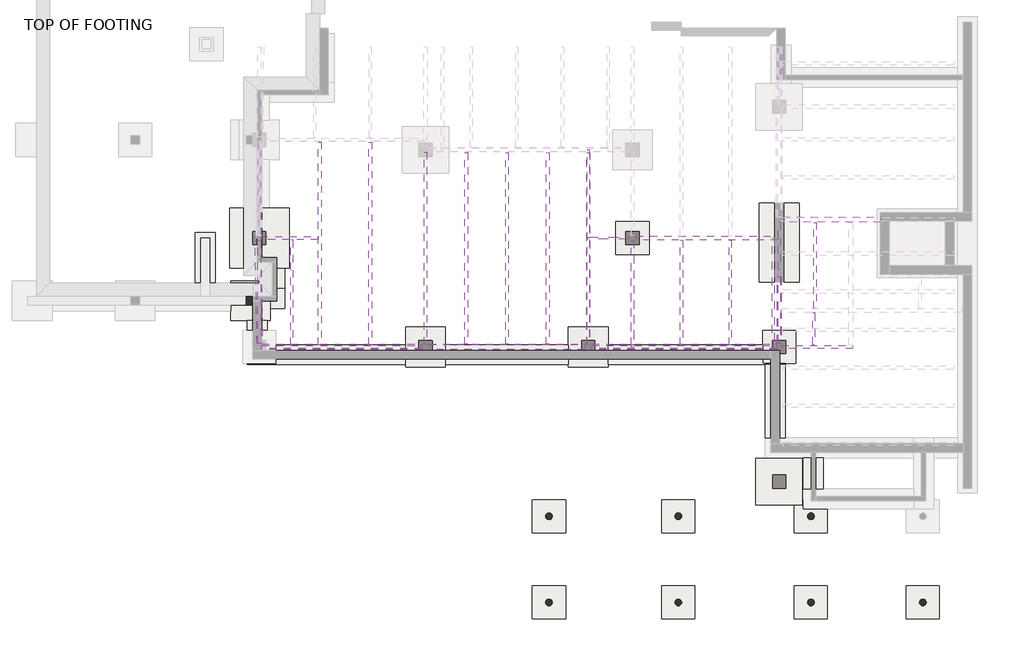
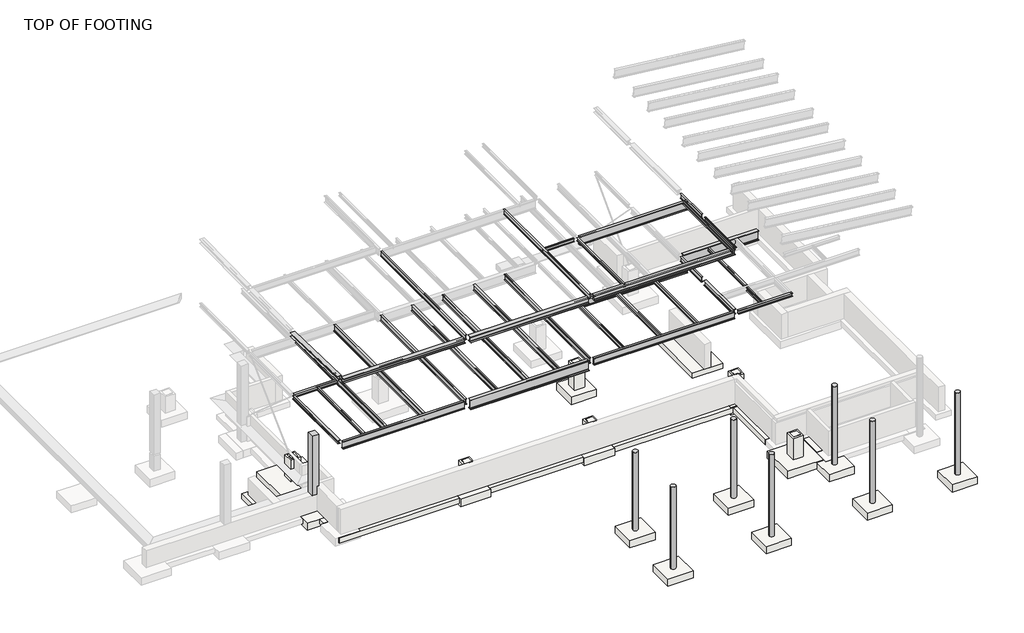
# One storey, part 2 of 5: 35 beams, 14 slabs, 8 columns, 8 footings.
"""IFC4 building model written with IfcOpenShell, lengths in millimetres."""

from ifc_helpers import new_model, si_unit, point, frame, frame_2d, origin, place, context, project, spatial, polyline, circle_curve, trimmed, segment, composite_curve, outline, extrude, faceted_brep, transform, mapped, element, save
from components import w_wide_flange_w10x12_1bd4f99f, w_wide_flange_w10x12_ebacd2cb, w_wide_flange_w10x49_96518129, w_wide_flange_w10x49_8d358260, w_wide_flange_w12x16_ddd03c39, w_wide_flange_w12x16_59da3857, w_wide_flange_w12x19_d63bb9e0, w_wide_flange_w12x30_b48d1e93, w_wide_flange_w12x53_96ffc1ec, w_wide_flange_w14x22_2ac3afcd, w_wide_flange_w14x22_4ceff1ba, w_wide_flange_w14x22_2e51511a, w_wide_flange_w14x22_ec72dc32, w_wide_flange_w14x61_86819d2a, w_wide_flange_w16x26_70125ba5, w_wide_flange_w16x31_951fd6ce, w_wide_flange_w18x46_b0132ec0, w_wide_flange_w21x44_c4d24364, w_wide_flange_w24x84_e470d529, w_wide_flange_w24x84_4409fa3f, w_wide_flange_w8x10_84c81e36, w_wide_flange_w8x10_45ce977e, w_wide_flange_w8x10_f623109c, w_wide_flange_w8x10_993dd0ac, w_wide_flange_w8x10_f96a4068, w_wide_flange_w8x10_729b3ca8, w_wide_flange_w8x10_84773640, w_wide_flange_w8x18_c4c3ec7c, w_wide_flange_w8x18_5f46299d, w_wide_flange_w8x18_17d6e70c, slab_df1ede25, footing_rectangular_with_pier_95157401

model = new_model("IFC4")

# Units and contexts
model_context = context("Model", 3, world=origin())
ifc_project = project(units=[si_unit("LENGTHUNIT", "METRE", prefix="MILLI")], contexts=[model_context])

# Site, building, storey
site = spatial("IfcSite", under=ifc_project)
building = spatial("IfcBuilding", under=site)
storey = spatial("IfcBuildingStorey", under=building, Name="TOP OF FOOTING", Elevation=28905.2)

# Beams
placement = place(None, origin())
w_wide_flange_w10x12_shape = w_wide_flange_w10x12_1bd4f99f(model_context)
element("IfcBeam", 1, ObjectType="W-Wide Flange : W10X12", at=placement, inside=storey, context=model_context, shape_type="MappedRepresentation", body=[
    mapped(w_wide_flange_w10x12_shape, transform((9072.9878726, -4439.2429995, 34253.551), x_axis=(0.0, -1.0, 0.0), y_axis=(1.0, 0.0, 0.0), z_axis=(0.0, 0.0, 1.0))),
])
element("IfcBeam", 2, ObjectType="W-Wide Flange : W10X12", at=placement, inside=storey, context=model_context, shape_type="MappedRepresentation", body=[
    mapped(w_wide_flange_w10x12_shape, transform((11320.358706, -4439.2429995, 34253.551), x_axis=(0.0, -1.0, 0.0), y_axis=(1.0, 0.0, 0.0), z_axis=(0.0, 0.0, 1.0))),
])
w_wide_flange_w10x12_2_shape = w_wide_flange_w10x12_ebacd2cb(model_context)
element("IfcBeam", 3, ObjectType="W-Wide Flange : W10X12", at=placement, inside=storey, context=model_context, shape_type="MappedRepresentation", body=[
    mapped(w_wide_flange_w10x12_2_shape, transform((6825.6170393, -4439.2429995, 34253.551), x_axis=(0.0, -1.0, 0.0), y_axis=(1.0, 0.0, 0.0), z_axis=(0.0, 0.0, 1.0))),
])
w_wide_flange_w10x49_shape = w_wide_flange_w10x49_96518129(model_context)
element("IfcBeam", 4, ObjectType="W-Wide Flange : W10X49", at=placement, inside=storey, context=model_context, shape_type="MappedRepresentation", body=[
    mapped(w_wide_flange_w10x49_shape, transform((-6564.9454607, -6942.7304995, 38277.8), x_axis=(1.0, 0.0, 0.0), y_axis=(0.0, 1.0, 0.0), z_axis=(0.0, 0.0, 1.0))),
])
w_wide_flange_w10x49_2_shape = w_wide_flange_w10x49_8d358260(model_context)
element("IfcBeam", 5, ObjectType="W-Wide Flange : W10X49", at=placement, inside=storey, context=model_context, shape_type="MappedRepresentation", body=[
    mapped(w_wide_flange_w10x49_2_shape, transform((-10353.3115157, -4435.9636409, 38341.3), x_axis=(-0.01923994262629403, 0.9998148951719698, 0.0), y_axis=(-0.9998148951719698, -0.01923994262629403, 0.0), z_axis=(0.0, 0.0, 1.0))),
])
w_wide_flange_w12x16_shape = w_wide_flange_w12x16_ddd03c39(model_context)
element("IfcBeam", 6, ObjectType="W-Wide Flange : W12X16", at=placement, inside=storey, context=model_context, shape_type="MappedRepresentation", body=[
    mapped(w_wide_flange_w12x16_shape, transform((-2689.8579607, -2446.9304995, 38315.9), x_axis=(0.0, 1.0, 0.0), y_axis=(-1.0, 0.0, 0.0), z_axis=(0.0, 0.0, 1.0))),
])
w_wide_flange_w12x16_2_shape = w_wide_flange_w12x16_59da3857(model_context)
element("IfcBeam", 7, ObjectType="W-Wide Flange : W12X16", at=placement, inside=storey, context=model_context, shape_type="MappedRepresentation", body=[
    mapped(w_wide_flange_w12x16_2_shape, transform((13567.7295393, -2311.9929995, 34226.5), x_axis=(0.0, 1.0, 0.0), y_axis=(-1.0, 0.0, 0.0), z_axis=(0.0, 0.0, 1.0))),
])
element("IfcBeam", 8, ObjectType="W-Wide Flange : W12X16", at=placement, inside=storey, context=model_context, shape_type="MappedRepresentation", body=[
    mapped(w_wide_flange_w12x16_2_shape, transform((13567.7295393, -2311.9929995, 38252.4), x_axis=(0.0, 1.0, 0.0), y_axis=(-1.0, 0.0, 0.0), z_axis=(0.0, 0.0, 1.0))),
])
w_wide_flange_w12x19_shape = w_wide_flange_w12x19_d63bb9e0(model_context)
element("IfcBeam", 9, ObjectType="W-Wide Flange : W12X19", at=placement, inside=storey, context=model_context, shape_type="MappedRepresentation", body=[
    mapped(w_wide_flange_w12x19_shape, transform((4795.2045393, -2446.9304995, 38313.36), x_axis=(0.0, 1.0, 0.0), y_axis=(-1.0, 0.0, 0.0), z_axis=(0.0, 0.0, 1.0))),
])
w_wide_flange_w12x30_shape = w_wide_flange_w12x30_b48d1e93(model_context)
element("IfcBeam", 10, ObjectType="W-Wide Flange : W12X30", at=placement, inside=storey, context=model_context, shape_type="MappedRepresentation", body=[
    mapped(w_wide_flange_w12x30_shape, transform((13567.7295393, -5240.9304995, 34222.69), x_axis=(0.0, 1.0, 0.0), y_axis=(-1.0, 0.0, 0.0), z_axis=(0.0, 0.0, 1.0))),
])
w_wide_flange_w12x53_shape = w_wide_flange_w12x53_96ffc1ec(model_context)
element("IfcBeam", 11, ObjectType="W-Wide Flange : W12X53", at=placement, inside=storey, context=model_context, shape_type="MappedRepresentation", body=[
    mapped(w_wide_flange_w12x53_shape, transform((9181.4670393, -6942.7304995, 38251.13), x_axis=(1.0, 0.0, 0.0), y_axis=(0.0, 1.0, 0.0), z_axis=(0.0, 0.0, 1.0))),
])
w_wide_flange_w14x22_shape = w_wide_flange_w14x22_2ac3afcd(model_context)
element("IfcBeam", 12, ObjectType="W-Wide Flange : W14X22", at=placement, inside=storey, context=model_context, shape_type="MappedRepresentation", body=[
    mapped(w_wide_flange_w14x22_shape, transform((-2689.8579607, -2446.9304995, 34204.91), x_axis=(0.0, 1.0, 0.0), y_axis=(-1.0, 0.0, 0.0), z_axis=(0.0, 0.0, 1.0))),
])
w_wide_flange_w14x22_2_shape = w_wide_flange_w14x22_4ceff1ba(model_context)
element("IfcBeam", 13, ObjectType="W-Wide Flange : W14X22", at=placement, inside=storey, context=model_context, shape_type="MappedRepresentation", body=[
    mapped(w_wide_flange_w14x22_2_shape, transform((4795.2045393, -2446.9304995, 34204.91), x_axis=(0.0, 1.0, 0.0), y_axis=(-1.0, 0.0, 0.0), z_axis=(0.0, 0.0, 1.0))),
])
w_wide_flange_w14x22_3_shape = w_wide_flange_w14x22_2e51511a(model_context)
element("IfcBeam", 14, ObjectType="W-Wide Flange : W14X22", at=placement, inside=storey, context=model_context, shape_type="MappedRepresentation", body=[
    mapped(w_wide_flange_w14x22_3_shape, transform((-7549.1954607, -2180.2304995, 34204.91), x_axis=(0.0, 1.0, 0.0), y_axis=(-1.0, 0.0, 0.0), z_axis=(0.0, 0.0, 1.0))),
])
w_wide_flange_w14x22_4_shape = w_wide_flange_w14x22_ec72dc32(model_context)
element("IfcBeam", 15, ObjectType="W-Wide Flange : W14X22", at=placement, inside=storey, context=model_context, shape_type="MappedRepresentation", body=[
    mapped(w_wide_flange_w14x22_4_shape, transform((-818.5923357, -2408.8304995, 34204.91), x_axis=(0.0, 1.0, 0.0), y_axis=(-1.0, 0.0, 0.0), z_axis=(0.0, 0.0, 1.0))),
])
element("IfcBeam", 16, ObjectType="W-Wide Flange : W14X22", at=placement, inside=storey, context=model_context, shape_type="MappedRepresentation", body=[
    mapped(w_wide_flange_w14x22_4_shape, transform((1052.6732893, -2408.8304995, 34204.91), x_axis=(0.0, 1.0, 0.0), y_axis=(-1.0, 0.0, 0.0), z_axis=(0.0, 0.0, 1.0))),
])
element("IfcBeam", 17, ObjectType="W-Wide Flange : W14X22", at=placement, inside=storey, context=model_context, shape_type="MappedRepresentation", body=[
    mapped(w_wide_flange_w14x22_4_shape, transform((2923.9389143, -2408.8304995, 34204.91), x_axis=(0.0, 1.0, 0.0), y_axis=(-1.0, 0.0, 0.0), z_axis=(0.0, 0.0, 1.0))),
])
w_wide_flange_w14x61_shape = w_wide_flange_w14x61_86819d2a(model_context)
element("IfcBeam", 18, ObjectType="W-Wide Flange : W14X61", at=placement, inside=storey, context=model_context, shape_type="MappedRepresentation", body=[
    mapped(w_wide_flange_w14x61_shape, transform((985.2045393, -6942.7304995, 38228.27), x_axis=(1.0, 0.0, 0.0), y_axis=(0.0, 1.0, 0.0), z_axis=(0.0, 0.0, 1.0))),
])
w_wide_flange_w16x26_shape = w_wide_flange_w16x26_70125ba5(model_context)
element("IfcBeam", 19, ObjectType="W-Wide Flange : W16X26", at=placement, inside=storey, context=model_context, shape_type="MappedRepresentation", body=[
    mapped(w_wide_flange_w16x26_shape, transform((-5228.2704607, -2180.2304995, 34179.51), x_axis=(0.0, 1.0, 0.0), y_axis=(-1.0, 0.0, 0.0), z_axis=(0.0, 0.0, 1.0))),
])
w_wide_flange_w16x31_shape = w_wide_flange_w16x31_951fd6ce(model_context)
element("IfcBeam", 20, ObjectType="W-Wide Flange : W16X31", at=placement, inside=storey, context=model_context, shape_type="MappedRepresentation", body=[
    mapped(w_wide_flange_w16x31_shape, transform((9181.4670393, -6942.7304995, 34176.97), x_axis=(1.0, 0.0, 0.0), y_axis=(0.0, 1.0, 0.0), z_axis=(0.0, 0.0, 1.0))),
])
w_wide_flange_w18x46_shape = w_wide_flange_w18x46_b0132ec0(model_context)
element("IfcBeam", 21, ObjectType="W-Wide Flange : W18X46", at=placement, inside=storey, context=model_context, shape_type="MappedRepresentation", body=[
    mapped(w_wide_flange_w18x46_shape, transform((-6564.9454607, -6942.7304995, 34149.03), x_axis=(1.0, 0.0, 0.0), y_axis=(0.0, 1.0, 0.0), z_axis=(0.0, 0.0, 1.0))),
])
w_wide_flange_w21x44_shape = w_wide_flange_w21x44_c4d24364(model_context)
element("IfcBeam", 22, ObjectType="W-Wide Flange : W21X44", at=placement, inside=storey, context=model_context, shape_type="MappedRepresentation", body=[
    mapped(w_wide_flange_w21x44_shape, transform((10196.6732893, -1935.7554995, 34116.01), x_axis=(1.0, 0.0, 0.0), y_axis=(0.0, 1.0, 0.0), z_axis=(0.0, 0.0, 1.0))),
])
element("IfcBeam", 23, ObjectType="W-Wide Flange : W21X44", at=placement, inside=storey, context=model_context, shape_type="MappedRepresentation", body=[
    mapped(w_wide_flange_w21x44_shape, transform((10196.6732893, -1935.7554995, 38141.91), x_axis=(1.0, 0.0, 0.0), y_axis=(0.0, 1.0, 0.0), z_axis=(0.0, 0.0, 1.0))),
])
w_wide_flange_w24x84_shape = w_wide_flange_w24x84_e470d529(model_context)
element("IfcBeam", 24, ObjectType="W-Wide Flange : W24X84", at=placement, inside=storey, context=model_context, shape_type="MappedRepresentation", body=[
    mapped(w_wide_flange_w24x84_shape, transform((985.2045393, -6942.7304995, 34072.83), x_axis=(1.0, 0.0, 0.0), y_axis=(0.0, 1.0, 0.0), z_axis=(0.0, 0.0, 1.0))),
])
w_wide_flange_w24x84_2_shape = w_wide_flange_w24x84_4409fa3f(model_context)
element("IfcBeam", 25, ObjectType="W-Wide Flange : W24X84", at=placement, inside=storey, context=model_context, shape_type="MappedRepresentation", body=[
    mapped(w_wide_flange_w24x84_2_shape, transform((15995.3891096, -1084.8554995, 34072.83), x_axis=(1.0, 0.0, 0.0), y_axis=(0.0, 1.0, 0.0), z_axis=(0.0, 0.0, 1.0))),
])
w_wide_flange_w8x10_shape = w_wide_flange_w8x10_84c81e36(model_context)
element("IfcBeam", 26, ObjectType="W-Wide Flange : W8X10", at=placement, inside=storey, context=model_context, shape_type="MappedRepresentation", body=[
    mapped(w_wide_flange_w8x10_shape, transform((-8844.5954607, -4439.2429995, 34278.697), x_axis=(0.0, 1.0, 0.0), y_axis=(-1.0, 0.0, 0.0), z_axis=(0.0, 0.0, 1.0))),
])
w_wide_flange_w8x10_2_shape = w_wide_flange_w8x10_45ce977e(model_context)
element("IfcBeam", 27, ObjectType="W-Wide Flange : W8X10", at=placement, inside=storey, context=model_context, shape_type="MappedRepresentation", body=[
    mapped(w_wide_flange_w8x10_2_shape, transform((13297.8545393, -4477.3429995, 38368.097), x_axis=(0.0, 1.0, 0.0), y_axis=(-1.0, 0.0, 0.0), z_axis=(0.0, 0.0, 1.0))),
])
w_wide_flange_w8x10_3_shape = w_wide_flange_w8x10_f623109c(model_context)
element("IfcBeam", 28, ObjectType="W-Wide Flange : W8X10", at=placement, inside=storey, context=model_context, shape_type="MappedRepresentation", body=[
    mapped(w_wide_flange_w8x10_3_shape, transform((13567.7295393, -5240.9304995, 38304.597), x_axis=(0.0, 1.0, 0.0), y_axis=(-1.0, 0.0, 0.0), z_axis=(0.0, 0.0, 1.0))),
])
w_wide_flange_w8x10_4_shape = w_wide_flange_w8x10_993dd0ac(model_context)
element("IfcBeam", 29, ObjectType="W-Wide Flange : W8X10", at=placement, inside=storey, context=model_context, shape_type="MappedRepresentation", body=[
    mapped(w_wide_flange_w8x10_4_shape, transform((15158.4045393, -6104.5304995, 34278.697), x_axis=(0.0, 1.0, 0.0), y_axis=(-1.0, 0.0, 0.0), z_axis=(0.0, 0.0, 1.0))),
])
w_wide_flange_w8x10_5_shape = w_wide_flange_w8x10_f96a4068(model_context)
element("IfcBeam", 30, ObjectType="W-Wide Flange : W8X10", at=placement, inside=storey, context=model_context, shape_type="MappedRepresentation", body=[
    mapped(w_wide_flange_w8x10_5_shape, transform((15213.9670393, -3175.5929995, 34278.697), x_axis=(0.0, 1.0, 0.0), y_axis=(-1.0, 0.0, 0.0), z_axis=(0.0, 0.0, 1.0))),
])
w_wide_flange_w8x10_6_shape = w_wide_flange_w8x10_729b3ca8(model_context)
element("IfcBeam", 31, ObjectType="W-Wide Flange : W8X10", at=placement, inside=storey, context=model_context, shape_type="MappedRepresentation", body=[
    mapped(w_wide_flange_w8x10_6_shape, transform((6825.6170393, -4439.2429995, 38368.097), x_axis=(0.0, -1.0, 0.0), y_axis=(1.0, 0.0, 0.0), z_axis=(0.0, 0.0, 1.0))),
])
w_wide_flange_w8x10_7_shape = w_wide_flange_w8x10_84773640(model_context)
element("IfcBeam", 32, ObjectType="W-Wide Flange : W8X10", at=placement, inside=storey, context=model_context, shape_type="MappedRepresentation", body=[
    mapped(w_wide_flange_w8x10_7_shape, transform((5802.693765, -1935.7554995, 38304.597), x_axis=(-1.0, 0.0, 0.0), y_axis=(0.0, -1.0, 0.0), z_axis=(0.0, 0.0, 1.0))),
])
w_wide_flange_w8x18_shape = w_wide_flange_w8x18_c4c3ec7c(model_context)
element("IfcBeam", 33, ObjectType="W-Wide Flange : W8X18", at=placement, inside=storey, context=model_context, shape_type="MappedRepresentation", body=[
    mapped(w_wide_flange_w8x18_shape, transform((15213.9670393, -6942.7304995, 34275.522), x_axis=(1.0, 0.0, 0.0), y_axis=(0.0, 1.0, 0.0), z_axis=(0.0, 0.0, 1.0))),
])
w_wide_flange_w8x18_2_shape = w_wide_flange_w8x18_5f46299d(model_context)
element("IfcBeam", 34, ObjectType="W-Wide Flange : W8X18", at=placement, inside=storey, context=model_context, shape_type="MappedRepresentation", body=[
    mapped(w_wide_flange_w8x18_2_shape, transform((-10327.3204607, -4437.8823673, 34275.522), x_axis=(0.0, -1.0, 0.0), y_axis=(1.0, 0.0, 0.0), z_axis=(0.0, 0.0, 1.0))),
])
w_wide_flange_w8x18_3_shape = w_wide_flange_w8x18_17d6e70c(model_context)
element("IfcBeam", 35, ObjectType="W-Wide Flange : W8X18", at=placement, inside=storey, context=model_context, shape_type="MappedRepresentation", body=[
    mapped(w_wide_flange_w8x18_3_shape, transform((-8938.2579607, -1935.7554995, 34275.522), x_axis=(1.0, 0.0, 0.0), y_axis=(0.0, 1.0, 0.0), z_axis=(0.0, 0.0, 1.0))),
])

# Columns
element("IfcColumn", 36, ObjectType="Concrete-Rectangular-Column : 16 x 16", at=placement, inside=storey, context=model_context, shape_type="Brep", body=[
    faceted_brep([(-10529.7763201, -4618.6304995, 33782.0), (-10529.7763201, -5025.0304995, 33782.0), (-10529.7763201, -5025.0304995, 30480.0), (-10529.7763201, -4618.6304995, 30480.0), (-10936.1763201, -5025.0304995, 33782.0), (-10936.1763201, -5025.0304995, 29972.0), (-10632.1204607, -5025.0304995, 29972.0), (-10632.1204607, -5025.0304995, 30480.0), (-10936.1763201, -4618.6304995, 33782.0), (-10936.1763201, -4618.6304995, 29972.0), (-10632.1204607, -4618.6304995, 30480.0), (-10632.1204607, -4618.6304995, 29972.0), (-10632.1204607, -4821.8304995, 30480.0)], [[[0, 1, 2, 3]], [[1, 4, 5, 6, 7, 2]], [[4, 8, 9, 5]], [[8, 0, 3, 10, 11, 9]], [[1, 0, 8, 4]], [[11, 6, 5, 9]], [[7, 6, 11, 10, 12]], [[7, 12, 10, 3, 2]]]),
])
element("IfcColumn", 37, ObjectType="Concrete-Round-Column1 : 12\"", at=placement, inside=storey, context=model_context, shape_type="SweptSolid", body=[
    extrude(outline(composite_curve([segment(trimmed(circle_curve(frame_2d((15024.5462086, -14731.7497924)), 152.4), [point((14872.1462086, -14731.7497924))], [point((15176.9462086, -14731.7497924))], False, "CARTESIAN"), True, "CONTINUOUS"), segment(trimmed(circle_curve(frame_2d((15024.5462086, -14731.7497924)), 152.4), [point((15176.9462086, -14731.7497924))], [point((14872.1462086, -14731.7497924))], False, "CARTESIAN"), True, "CONTINUOUS")], self_intersect=False)), frame((0.0, 0.0, 28854.4), z_axis=(0.0, 0.0, 1.0), x_axis=(1.0, 0.0, 0.0)), (0.0, 0.0, 1.0), 5003.8),
])
element("IfcColumn", 38, ObjectType="Concrete-Round-Column1 : 12\"", at=placement, inside=storey, context=model_context, shape_type="SweptSolid", body=[
    extrude(outline(composite_curve([segment(trimmed(circle_curve(frame_2d((8928.5462086, -14731.7497924)), 152.4), [point((8776.1462086, -14731.7497924))], [point((9080.9462086, -14731.7497924))], False, "CARTESIAN"), True, "CONTINUOUS"), segment(trimmed(circle_curve(frame_2d((8928.5462086, -14731.7497924)), 152.4), [point((9080.9462086, -14731.7497924))], [point((8776.1462086, -14731.7497924))], False, "CARTESIAN"), True, "CONTINUOUS")], self_intersect=False)), frame((0.0, 0.0, 28854.4), z_axis=(0.0, 0.0, 1.0), x_axis=(1.0, 0.0, 0.0)), (0.0, 0.0, 1.0), 5003.8),
])
element("IfcColumn", 39, ObjectType="Concrete-Round-Column1 : 12\"", at=placement, inside=storey, context=model_context, shape_type="SweptSolid", body=[
    extrude(outline(composite_curve([segment(trimmed(circle_curve(frame_2d((2984.9462086, -14731.7497924)), 152.4), [point((2832.5462086, -14731.7497924))], [point((3137.3462086, -14731.7497924))], False, "CARTESIAN"), True, "CONTINUOUS"), segment(trimmed(circle_curve(frame_2d((2984.9462086, -14731.7497924)), 152.4), [point((3137.3462086, -14731.7497924))], [point((2832.5462086, -14731.7497924))], False, "CARTESIAN"), True, "CONTINUOUS")], self_intersect=False)), frame((0.0, 0.0, 28854.4), z_axis=(0.0, 0.0, 1.0), x_axis=(1.0, 0.0, 0.0)), (0.0, 0.0, 1.0), 5003.8),
])
element("IfcColumn", 40, ObjectType="Concrete-Round-Column1 : 12\"", at=placement, inside=storey, context=model_context, shape_type="SweptSolid", body=[
    extrude(outline(composite_curve([segment(trimmed(circle_curve(frame_2d((20168.0462086, -18694.1497924)), 152.4), [point((20015.6462086, -18694.1497924))], [point((20320.4462086, -18694.1497924))], False, "CARTESIAN"), True, "CONTINUOUS"), segment(trimmed(circle_curve(frame_2d((20168.0462086, -18694.1497924)), 152.4), [point((20320.4462086, -18694.1497924))], [point((20015.6462086, -18694.1497924))], False, "CARTESIAN"), True, "CONTINUOUS")], self_intersect=False)), frame((0.0, 0.0, 28803.6), z_axis=(0.0, 0.0, 1.0), x_axis=(1.0, 0.0, 0.0)), (0.0, 0.0, 1.0), 5232.4),
])
element("IfcColumn", 41, ObjectType="Concrete-Round-Column1 : 12\"", at=placement, inside=storey, context=model_context, shape_type="SweptSolid", body=[
    extrude(outline(composite_curve([segment(trimmed(circle_curve(frame_2d((15024.5462086, -18694.1497924)), 152.4), [point((14872.1462086, -18694.1497924))], [point((15176.9462086, -18694.1497924))], False, "CARTESIAN"), True, "CONTINUOUS"), segment(trimmed(circle_curve(frame_2d((15024.5462086, -18694.1497924)), 152.4), [point((15176.9462086, -18694.1497924))], [point((14872.1462086, -18694.1497924))], False, "CARTESIAN"), True, "CONTINUOUS")], self_intersect=False)), frame((0.0, 0.0, 28803.6), z_axis=(0.0, 0.0, 1.0), x_axis=(1.0, 0.0, 0.0)), (0.0, 0.0, 1.0), 5232.4),
])
element("IfcColumn", 42, ObjectType="Concrete-Round-Column1 : 12\"", at=placement, inside=storey, context=model_context, shape_type="SweptSolid", body=[
    extrude(outline(composite_curve([segment(trimmed(circle_curve(frame_2d((8928.5462086, -18694.1497924)), 152.4), [point((8776.1462086, -18694.1497924))], [point((9080.9462086, -18694.1497924))], False, "CARTESIAN"), True, "CONTINUOUS"), segment(trimmed(circle_curve(frame_2d((8928.5462086, -18694.1497924)), 152.4), [point((9080.9462086, -18694.1497924))], [point((8776.1462086, -18694.1497924))], False, "CARTESIAN"), True, "CONTINUOUS")], self_intersect=False)), frame((0.0, 0.0, 28803.6), z_axis=(0.0, 0.0, 1.0), x_axis=(1.0, 0.0, 0.0)), (0.0, 0.0, 1.0), 5232.4),
])
element("IfcColumn", 43, ObjectType="Concrete-Round-Column1 : 12\"", at=placement, inside=storey, context=model_context, shape_type="SweptSolid", body=[
    extrude(outline(composite_curve([segment(trimmed(circle_curve(frame_2d((2984.9462086, -18694.1497924)), 152.4), [point((2832.5462086, -18694.1497924))], [point((3137.3462086, -18694.1497924))], False, "CARTESIAN"), True, "CONTINUOUS"), segment(trimmed(circle_curve(frame_2d((2984.9462086, -18694.1497924)), 152.4), [point((3137.3462086, -18694.1497924))], [point((2832.5462086, -18694.1497924))], False, "CARTESIAN"), True, "CONTINUOUS")], self_intersect=False)), frame((0.0, 0.0, 28803.6), z_axis=(0.0, 0.0, 1.0), x_axis=(1.0, 0.0, 0.0)), (0.0, 0.0, 1.0), 5232.4),
])

# Footings
element("IfcFooting", 44, ObjectType="Bearing Footing - 36\" x 12\"", at=placement, inside=storey, context=model_context, shape_type="Brep", body=[
    faceted_brep([(-9565.3204607, -7704.7304995, 28905.2), (-10886.1204607, -7704.7304995, 28905.2), (-10886.1204607, -7755.5304995, 28905.2), (-3604.2579607, -7755.5304995, 28905.2), (-3604.2579607, -6841.1304995, 28905.2), (-9565.3204607, -6841.1304995, 28905.2), (-10886.1204607, -7755.5304995, 28600.4), (-3604.2579607, -7755.5304995, 28600.4), (-10886.1204607, -7704.7304995, 28600.4), (-9565.3204607, -7704.7304995, 28600.4), (-9565.3204607, -6841.1304995, 28600.4), (-3604.2579607, -6841.1304995, 28600.4)], [[[0, 1, 2, 3, 4, 5]], [[2, 6, 7, 3]], [[7, 6, 8, 9, 10, 11]], [[10, 5, 4, 11]], [[0, 9, 8, 1]], [[9, 0, 5, 10]], [[6, 2, 1, 8]], [[4, 3, 7, 11]]]),
    faceted_brep([(12805.7295393, -7704.7304995, 28905.2), (12805.7295393, -6841.1304995, 28905.2), (5709.6045393, -6841.1304995, 28905.2), (5709.6045393, -7755.5304995, 28905.2), (12923.2045393, -7755.5304995, 28905.2), (13837.6045393, -7755.5304995, 28905.2), (13837.6045393, -7704.7304995, 28905.2), (13837.6045393, -7755.5304995, 28600.4), (5709.6045393, -7755.5304995, 28600.4), (12923.2045393, -7755.5304995, 28600.4), (13837.6045393, -7704.7304995, 28600.4), (5709.6045393, -6841.1304995, 28600.4), (12805.7295393, -6841.1304995, 28600.4), (12805.7295393, -7704.7304995, 28600.4)], [[[0, 1, 2, 3, 4, 5, 6]], [[7, 5, 4, 3, 8, 9]], [[10, 7, 9, 8, 11, 12, 13]], [[1, 12, 11, 2]], [[0, 13, 12, 1]], [[13, 0, 6, 10]], [[5, 7, 10, 6]], [[3, 2, 11, 8]]]),
    faceted_brep([(-1775.4579607, -6841.1304995, 28905.2), (-1775.4579607, -7755.5304995, 28905.2), (3880.8045393, -7755.5304995, 28905.2), (3880.8045393, -6841.1304995, 28905.2), (-1775.4579607, -7755.5304995, 28600.4), (3880.8045393, -7755.5304995, 28600.4), (-1775.4579607, -6841.1304995, 28600.4), (3880.8045393, -6841.1304995, 28600.4)], [[[0, 1, 2, 3]], [[1, 4, 5, 2]], [[4, 6, 7, 5]], [[6, 0, 3, 7]], [[1, 0, 6, 4]], [[3, 2, 5, 7]]]),
])
element("IfcFooting", 45, ObjectType="Bearing Footing - 36\" x 12\"", at=placement, inside=storey, context=model_context, shape_type="SweptSolid", body=[
    extrude(outline(polyline([(14682.1545393, -12041.7804995), (15596.5545393, -12041.7804995), (15596.5545393, -13470.5304995), (14682.1545393, -13470.5304995), (14682.1545393, -12041.7804995)])), frame((0.0, 0.0, 28600.4), z_axis=(0.0, 0.0, 1.0), x_axis=(1.0, 0.0, 0.0)), (0.0, 0.0, 1.0), 304.8),
])
element("IfcFooting", 46, ObjectType="Bearing Footing - 36\" x 12\"", at=placement, inside=storey, context=model_context, shape_type="SweptSolid", body=[
    extrude(outline(polyline([(12923.2045393, -7755.5304995), (13837.6045393, -7755.5304995), (13837.6045393, -11127.3804995), (12923.2045393, -11127.3804995), (12923.2045393, -7755.5304995)])), frame((0.0, 0.0, 28600.4), z_axis=(0.0, 0.0, 1.0), x_axis=(1.0, 0.0, 0.0)), (0.0, 0.0, 1.0), 304.8),
])
element("IfcFooting", 47, ObjectType="Bearing Footing - 36\" x 12\"", at=placement, inside=storey, context=model_context, shape_type="SweptSolid", body=[
    extrude(outline(polyline([(-10886.1204607, -5736.2304995), (-9971.7204607, -5736.2304995), (-9971.7204607, -6180.7304995), (-10886.1204607, -6180.7304995), (-10886.1204607, -5736.2304995)])), frame((0.0, 0.0, 28600.4), z_axis=(0.0, 0.0, 1.0), x_axis=(1.0, 0.0, 0.0)), (0.0, 0.0, 1.0), 304.8),
])
element("IfcFooting", 48, ObjectType="Bearing Footing - 36\" x 12\"", at=placement, inside=storey, context=model_context, shape_type="SweptSolid", body=[
    extrude(outline(polyline([(-12354.5579607, -4364.6304995), (-13268.9579607, -4364.6304995), (-13268.9579607, -1681.7554995), (-12354.5579607, -1681.7554995), (-12354.5579607, -4364.6304995)])), frame((0.0, 0.0, 28600.4), z_axis=(0.0, 0.0, 1.0), x_axis=(1.0, 0.0, 0.0)), (0.0, 0.0, 1.0), 304.8),
])
element("IfcFooting", 49, ObjectType="Bearing Footing - 36\" x 12\"", at=placement, inside=storey, context=model_context, shape_type="SweptSolid", body=[
    extrude(outline(polyline([(-9168.4454607, -4263.0304995), (-9168.4454607, -5177.4304995), (-9818.5763201, -5177.4304995), (-9818.5763201, -4263.0304995), (-9168.4454607, -4263.0304995)])), frame((0.0, 0.0, 28600.4), z_axis=(0.0, 0.0, 1.0), x_axis=(1.0, 0.0, 0.0)), (0.0, 0.0, 1.0), 304.8),
])
element("IfcFooting", 50, ObjectType="Bearing Footing - 36\" x 12\"", at=placement, inside=storey, context=model_context, shape_type="Brep", body=[
    faceted_brep([(-10082.8454607, -3907.4304995, 28905.2), (-9818.5763201, -3907.4304995, 28905.2), (-9818.5763201, -4263.0304995, 28905.2), (-9168.4454607, -4263.0304995, 28905.2), (-9168.4454607, -3307.3554995, 28905.2), (-9870.1204607, -3307.3554995, 28905.2), (-9870.1204607, -3396.2554995, 28905.2), (-10082.8454607, -3396.2554995, 28905.2), (-9168.4454607, -3307.3554995, 28625.8), (-9168.4454607, -4263.0304995, 28600.4), (-9168.4454607, -2481.8554995, 28600.4), (-9168.4454607, -2481.8554995, 28625.8), (-9818.5763201, -3907.4304995, 28600.4), (-10082.8454607, -3907.4304995, 28600.4), (-10082.8454607, -3396.2554995, 28600.4), (-9870.1204607, -3396.2554995, 28600.4), (-9870.1204607, -2481.8554995, 28600.4), (-9818.5763201, -4263.0304995, 28600.4), (-9870.1204607, -3307.3554995, 28625.8), (-9870.1204607, -2481.8554995, 28625.8)], [[[0, 1, 2, 3, 4, 5, 6, 7]], [[8, 4, 3, 9, 10, 11]], [[12, 13, 14, 15, 16, 10, 9, 17]], [[13, 0, 7, 14]], [[4, 8, 18, 5]], [[12, 1, 0, 13]], [[1, 12, 17, 2]], [[3, 2, 17, 9]], [[11, 10, 16, 19]], [[15, 6, 5, 18, 19, 16]], [[6, 15, 14, 7]], [[8, 11, 19, 18]]]),
])
element("IfcFooting", 51, ObjectType="Bearing Footing - 72\" x 12\" 2", at=placement, inside=storey, context=model_context, shape_type="SweptSolid", body=[
    extrude(outline(polyline([(12653.3295393, -326.0304995), (14482.1295393, -326.0304995), (14482.1295393, -3958.2304995), (12653.3295393, -3958.2304995), (12653.3295393, -326.0304995)])), frame((0.0, 0.0, 28600.4), z_axis=(0.0, 0.0, 1.0), x_axis=(1.0, 0.0, 0.0)), (0.0, 0.0, 1.0), 304.8),
])

# Slabs
element("IfcSlab", 52, ObjectType="Footing-Rectangular : 5'-0\" x 5'-0\" x 1'-6\"", at=placement, inside=storey, context=model_context, shape_type="Brep", body=[
    faceted_brep([(14262.5462086, -15493.7497924, 28854.4), (15786.5462086, -15493.7497924, 28854.4), (15786.5462086, -14384.9304995, 28854.4), (15786.5462086, -13969.7497924, 28854.4), (14682.1545393, -13969.7497924, 28854.4), (14634.5295393, -13969.7497924, 28854.4), (14634.5295393, -14207.1801089, 28854.4), (14262.5462086, -14207.1801089, 28854.4), (15786.5462086, -13969.7497924, 28397.2), (15786.5462086, -15493.7497924, 28397.2), (14262.5462086, -15493.7497924, 28397.2), (14262.5462086, -13969.7497924, 28397.2), (14262.5462086, -13969.7497924, 28448.0), (14634.5295393, -13969.7497924, 28448.0), (15786.5462086, -13969.7497924, 28600.4), (14262.5462086, -14207.1801089, 28448.0), (14634.5295393, -14207.1801089, 28448.0)], [[[0, 1, 2, 3, 4, 5, 6, 7]], [[8, 9, 10, 11]], [[8, 11, 12, 13, 5, 4, 3, 14]], [[11, 10, 0, 7, 15, 12]], [[1, 0, 10, 9]], [[3, 2, 1, 9, 8, 14]], [[15, 16, 13, 12]], [[16, 15, 7, 6]], [[13, 16, 6, 5]]]),
])
slab_shape = slab_df1ede25(model_context)
element("IfcSlab", 53, ObjectType="Footing-Rectangular : 5'-0\" x 5'-0\" x 1'-6\"", at=placement, inside=storey, context=model_context, shape_type="MappedRepresentation", body=[
    mapped(slab_shape, transform((2984.9462086, -14731.7497924, 28854.4), x_axis=(1.0, 0.0, 0.0), y_axis=(0.0, 1.0, 0.0), z_axis=(0.0, 0.0, 1.0))),
])
element("IfcSlab", 54, ObjectType="Footing-Rectangular : 5'-0\" x 5'-0\" x 1'-6\"", at=placement, inside=storey, context=model_context, shape_type="MappedRepresentation", body=[
    mapped(slab_shape, transform((2984.9462086, -18694.1497924, 28803.6), x_axis=(1.0, 0.0, 0.0), y_axis=(0.0, 1.0, 0.0), z_axis=(0.0, 0.0, 1.0))),
])
element("IfcSlab", 55, ObjectType="Footing-Rectangular : 5'-0\" x 5'-0\" x 1'-6\"", at=placement, inside=storey, context=model_context, shape_type="MappedRepresentation", body=[
    mapped(slab_shape, transform((8928.5462086, -18694.1497924, 28803.6), x_axis=(1.0, 0.0, 0.0), y_axis=(0.0, 1.0, 0.0), z_axis=(0.0, 0.0, 1.0))),
])
element("IfcSlab", 56, ObjectType="Footing-Rectangular : 5'-0\" x 5'-0\" x 1'-6\"", at=placement, inside=storey, context=model_context, shape_type="MappedRepresentation", body=[
    mapped(slab_shape, transform((8928.5462086, -14731.7497924, 28854.4), x_axis=(1.0, 0.0, 0.0), y_axis=(0.0, 1.0, 0.0), z_axis=(0.0, 0.0, 1.0))),
])
element("IfcSlab", 57, ObjectType="Footing-Rectangular : 5'-0\" x 5'-0\" x 1'-6\"", at=placement, inside=storey, context=model_context, shape_type="MappedRepresentation", body=[
    mapped(slab_shape, transform((15024.5462086, -18694.1497924, 28803.6), x_axis=(1.0, 0.0, 0.0), y_axis=(0.0, 1.0, 0.0), z_axis=(0.0, 0.0, 1.0))),
])
element("IfcSlab", 58, ObjectType="Footing-Rectangular : 5'-0\" x 5'-0\" x 1'-6\"", at=placement, inside=storey, context=model_context, shape_type="MappedRepresentation", body=[
    mapped(slab_shape, transform((20168.0462086, -18694.1497924, 28803.6), x_axis=(1.0, 0.0, 0.0), y_axis=(0.0, 1.0, 0.0), z_axis=(0.0, 0.0, 1.0))),
])
element("IfcSlab", 59, ObjectType="Footing-Rectangular : 6'-0\" x 6'-0\" x 1'-6\"", at=placement, inside=storey, context=model_context, shape_type="Brep", body=[
    faceted_brep([(-9818.5763201, -3907.4304995, 28905.2), (-10082.8454607, -3907.4304995, 28905.2), (-11647.3763201, -3907.4304995, 28905.2), (-11647.3763201, -4364.6304995, 28905.2), (-11647.3763201, -5279.0304995, 28905.2), (-11647.3763201, -5736.2304995, 28905.2), (-10886.1204607, -5736.2304995, 28905.2), (-9971.7204607, -5736.2304995, 28905.2), (-9818.5763201, -5736.2304995, 28905.2), (-9818.5763201, -5177.4304995, 28905.2), (-9818.5763201, -4263.0304995, 28905.2), (-9818.5763201, -3907.4304995, 28448.0), (-9818.5763201, -5736.2304995, 28448.0), (-11647.3763201, -5736.2304995, 28448.0), (-11647.3763201, -3907.4304995, 28448.0), (-9818.5763201, -3907.4304995, 28600.4)], [[[0, 1, 2, 3, 4, 5, 6, 7, 8, 9, 10]], [[11, 12, 13, 14]], [[2, 1, 0, 15, 11, 14]], [[5, 4, 3, 2, 14, 13]], [[8, 7, 6, 5, 13, 12]], [[0, 10, 9, 8, 12, 11, 15]]]),
])
element("IfcSlab", 60, ObjectType="Footing-Rectangular_With_Pier : F2 - 9'-0\" x 9'-0\" x 1'-6\"", at=placement, inside=storey, context=model_context, shape_type="SolidModel", body=[
    extrude(outline(polyline([(-10022.5204607, -1630.9554995), (-10022.5204607, -2240.5554995), (-10632.1204607, -2240.5554995), (-10632.1204607, -1630.9554995), (-10022.5204607, -1630.9554995)])), frame((0.0, 0.0, 29083.0), z_axis=(0.0, 0.0, 1.0), x_axis=(1.0, 0.0, 0.0)), (0.0, 0.0, 1.0), 1371.6),
    faceted_brep([(-8955.7204607, -564.1554995, 29083.0), (-11698.9204607, -564.1554995, 29083.0), (-11698.9204607, -3307.3554995, 29083.0), (-8955.7204607, -3307.3554995, 29083.0), (-8955.7204607, -564.1554995, 28625.8), (-8955.7204607, -3307.3554995, 28625.8), (-9168.4454607, -3307.3554995, 28625.8), (-9870.1204607, -3307.3554995, 28625.8), (-10784.5204607, -3307.3554995, 28625.8), (-11698.9204607, -3307.3554995, 28625.8), (-11698.9204607, -564.1554995, 28625.8), (-10784.5204607, -564.1554995, 28625.8), (-9870.1204607, -564.1554995, 28625.8)], [[[0, 1, 2, 3]], [[4, 5, 6, 7, 8, 9, 10, 11, 12]], [[1, 0, 4, 12, 11, 10]], [[2, 1, 10, 9]], [[3, 2, 9, 8, 7, 6, 5]], [[0, 3, 5, 4]]]),
    extrude(outline(polyline([(-10124.1204607, -1732.5554995), (-10124.1204607, -2138.9554995), (-10530.5204607, -2138.9554995), (-10530.5204607, -1732.5554995), (-10124.1204607, -1732.5554995)])), frame((0.0, 0.0, 30454.6), z_axis=(0.0, 0.0, 1.0), x_axis=(1.0, 0.0, 0.0)), (0.0, 0.0, 1.0), 25.4),
])
element("IfcSlab", 61, ObjectType="Footing-Rectangular_With_Pier : F7 - 7'-0\" x 7'-0\" x 1'-6\"", at=placement, inside=storey, context=model_context, shape_type="SolidModel", body=[
    extrude(outline(polyline([(13872.5295393, -12835.5801089), (13872.5295393, -13445.1801089), (13262.9295393, -13445.1801089), (13262.9295393, -12835.5801089), (13872.5295393, -12835.5801089)])), frame((0.0, 0.0, 28905.2), z_axis=(0.0, 0.0, 1.0), x_axis=(1.0, 0.0, 0.0)), (0.0, 0.0, 1.0), 1371.6),
    faceted_brep([(14634.5295393, -12073.5801089, 28905.2), (12500.9295393, -12073.5801089, 28905.2), (12500.9295393, -14207.1801089, 28905.2), (14634.5295393, -14207.1801089, 28905.2), (14634.5295393, -12073.5801089, 28448.0), (14634.5295393, -13969.7497924, 28448.0), (14634.5295393, -14207.1801089, 28448.0), (14262.5462086, -14207.1801089, 28448.0), (12500.9295393, -14207.1801089, 28448.0), (12500.9295393, -12073.5801089, 28448.0), (14634.5295393, -14207.1801089, 28854.4)], [[[0, 1, 2, 3]], [[4, 5, 6, 7, 8, 9]], [[1, 0, 4, 9]], [[2, 1, 9, 8]], [[3, 2, 8, 7, 6, 10]], [[0, 3, 10, 6, 5, 4]]]),
    extrude(outline(polyline([(13770.9295393, -12937.1801089), (13770.9295393, -13343.5801089), (13364.5295393, -13343.5801089), (13364.5295393, -12937.1801089), (13770.9295393, -12937.1801089)])), frame((0.0, 0.0, 30276.8), z_axis=(0.0, 0.0, 1.0), x_axis=(1.0, 0.0, 0.0)), (0.0, 0.0, 1.0), 25.4),
])
element("IfcSlab", 62, ObjectType="Footing-Rectangular_With_Pier : F3 - 6'-0\" x 6'-0\" x 1'-6\"", at=placement, inside=storey, context=model_context, shape_type="SolidModel", body=[
    extrude(outline(polyline([(-2385.0579607, -6637.9304995), (-2385.0579607, -7247.5304995), (-2994.6579607, -7247.5304995), (-2994.6579607, -6637.9304995), (-2385.0579607, -6637.9304995)])), frame((0.0, 0.0, 28905.2), z_axis=(0.0, 0.0, 1.0), x_axis=(1.0, 0.0, 0.0)), (0.0, 0.0, 1.0), 1549.4),
    faceted_brep([(-1775.4579607, -6028.3304995, 28905.2), (-3604.2579607, -6028.3304995, 28905.2), (-3604.2579607, -6841.1304995, 28905.2), (-3604.2579607, -7755.5304995, 28905.2), (-3604.2579607, -7857.1304995, 28905.2), (-1775.4579607, -7857.1304995, 28905.2), (-1775.4579607, -7755.5304995, 28905.2), (-1775.4579607, -6841.1304995, 28905.2), (-1775.4579607, -6028.3304995, 28448.0), (-1775.4579607, -7857.1304995, 28448.0), (-3604.2579607, -7857.1304995, 28448.0), (-3604.2579607, -6028.3304995, 28448.0)], [[[0, 1, 2, 3, 4, 5, 6, 7]], [[8, 9, 10, 11]], [[1, 0, 8, 11]], [[4, 3, 2, 1, 11, 10]], [[5, 4, 10, 9]], [[0, 7, 6, 5, 9, 8]]]),
    extrude(outline(polyline([(-2486.6579607, -6739.5304995), (-2486.6579607, -7145.9304995), (-2893.0579607, -7145.9304995), (-2893.0579607, -6739.5304995), (-2486.6579607, -6739.5304995)])), frame((0.0, 0.0, 30454.6), z_axis=(0.0, 0.0, 1.0), x_axis=(1.0, 0.0, 0.0)), (0.0, 0.0, 1.0), 25.4),
])
element("IfcSlab", 63, ObjectType="Footing-Rectangular_With_Pier : F3 - 6'-0\" x 6'-0\" x 1'-6\"", at=placement, inside=storey, context=model_context, shape_type="SolidModel", body=[
    extrude(outline(polyline([(5100.0045393, -6637.9304995), (5100.0045393, -7247.5304995), (4490.4045393, -7247.5304995), (4490.4045393, -6637.9304995), (5100.0045393, -6637.9304995)])), frame((0.0, 0.0, 28905.2), z_axis=(0.0, 0.0, 1.0), x_axis=(1.0, 0.0, 0.0)), (0.0, 0.0, 1.0), 1549.4),
    faceted_brep([(5709.6045393, -6028.3304995, 28905.2), (3880.8045393, -6028.3304995, 28905.2), (3880.8045393, -6841.1304995, 28905.2), (3880.8045393, -7755.5304995, 28905.2), (3880.8045393, -7857.1304995, 28905.2), (5709.6045393, -7857.1304995, 28905.2), (5709.6045393, -7755.5304995, 28905.2), (5709.6045393, -6841.1304995, 28905.2), (5709.6045393, -6028.3304995, 28448.0), (5709.6045393, -7857.1304995, 28448.0), (3880.8045393, -7857.1304995, 28448.0), (3880.8045393, -6028.3304995, 28448.0)], [[[0, 1, 2, 3, 4, 5, 6, 7]], [[8, 9, 10, 11]], [[1, 0, 8, 11]], [[4, 3, 2, 1, 11, 10]], [[5, 4, 10, 9]], [[0, 7, 6, 5, 9, 8]]]),
    extrude(outline(polyline([(4998.4045393, -6739.5304995), (4998.4045393, -7145.9304995), (4592.0045393, -7145.9304995), (4592.0045393, -6739.5304995), (4998.4045393, -6739.5304995)])), frame((0.0, 0.0, 30454.6), z_axis=(0.0, 0.0, 1.0), x_axis=(1.0, 0.0, 0.0)), (0.0, 0.0, 1.0), 25.4),
])
element("IfcSlab", 64, ObjectType="Footing-Rectangular_With_Pier : F8 - 5'-0\" x 5'-0\" x 1'-6\"", at=placement, inside=storey, context=model_context, shape_type="SolidModel", body=[
    extrude(outline(polyline([(13872.5295393, -6637.9304995), (13872.5295393, -7247.5304995), (13262.9295393, -7247.5304995), (13262.9295393, -6637.9304995), (13872.5295393, -6637.9304995)])), frame((0.0, 0.0, 28905.2), z_axis=(0.0, 0.0, 1.0), x_axis=(1.0, 0.0, 0.0)), (0.0, 0.0, 1.0), 1549.4),
    faceted_brep([(14329.7295393, -6180.7304995, 28905.2), (12805.7295393, -6180.7304995, 28905.2), (12805.7295393, -6841.1304995, 28905.2), (12805.7295393, -7704.7304995, 28905.2), (13837.6045393, -7704.7304995, 28905.2), (14329.7295393, -7704.7304995, 28905.2), (14329.7295393, -6180.7304995, 28448.0), (14329.7295393, -7704.7304995, 28448.0), (12805.7295393, -7704.7304995, 28448.0), (12805.7295393, -6180.7304995, 28448.0), (12805.7295393, -7704.7304995, 28600.4)], [[[0, 1, 2, 3, 4, 5]], [[6, 7, 8, 9]], [[1, 0, 6, 9]], [[3, 2, 1, 9, 8, 10]], [[5, 4, 3, 10, 8, 7]], [[0, 5, 7, 6]]]),
    extrude(outline(polyline([(13770.9295393, -6739.5304995), (13770.9295393, -7145.9304995), (13364.5295393, -7145.9304995), (13364.5295393, -6739.5304995), (13770.9295393, -6739.5304995)])), frame((0.0, 0.0, 30454.6), z_axis=(0.0, 0.0, 1.0), x_axis=(1.0, 0.0, 0.0)), (0.0, 0.0, 1.0), 25.4),
])
footing_rectangular_with_pier_shape = footing_rectangular_with_pier_95157401(model_context)
element("IfcSlab", 65, ObjectType="Footing-Rectangular_With_Pier : F8 - 5'-0\" x 5'-0\" x 1'-6\"", at=placement, inside=storey, context=model_context, shape_type="MappedRepresentation", body=[
    mapped(footing_rectangular_with_pier_shape, transform((6825.6170393, -1935.7554995, 28905.2), x_axis=(1.0, 0.0, 0.0), y_axis=(0.0, 1.0, 0.0), z_axis=(0.0, 0.0, 1.0))),
])

save(model, "model.ifc")
